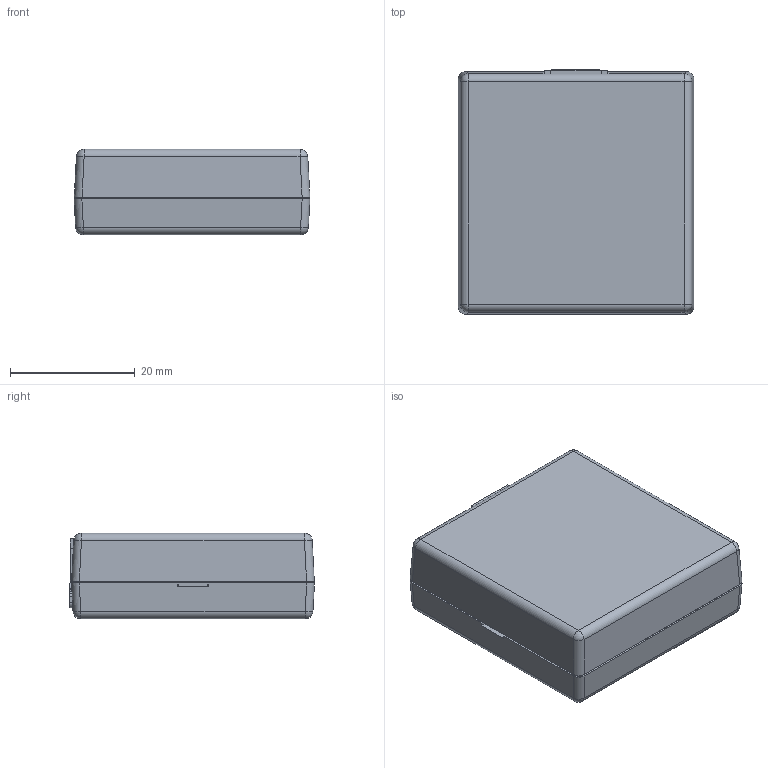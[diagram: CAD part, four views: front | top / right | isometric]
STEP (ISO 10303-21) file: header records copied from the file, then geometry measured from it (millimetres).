
FILE_DESCRIPTION(/* description */ ('Alibre Inc.'),/* implementation_level */ '2;1');
FILE_NAME(/* name */ 'export-A8FEBFD9-3367-4C47-B630-56BEC604B62A',/* time_stamp */ '2022-08-19T13:12:48-06:00',/* author */ (''),/* organization */ (''),/* preprocessor_version */ 'ST-DEVELOPER v17',/* originating_system */ 'Alibre',/* authorisation */ '');
FILE_SCHEMA (('CONFIG_CONTROL_DESIGN'));
Length unit declared in the file: millimetre
Products named in the file (87): J1; 6008891392; 6008891200; C13; 6008892160; 6008891968; C11; 6008890816; 6008890624; FB2; C7; User_Library-SOT-23-1; U9; U2; R10; O1; 6008890240; 6008890432; C23; C10; C9; C8; C4; C3; C2; C1; RV1; R13; R11; 6008891008; L3; 6494292096; L2; 705530002; J2; FB1; 6494291520; U3; C12; R1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
Bounding box: 37.85 x 39.3 x 13.72 mm (x, y, z)
Volume: 9523.3 mm3; surface area: 14245.2 mm2
Topology: 84 solids, 84 shells, 1716 faces, 4288 edges, 2730 vertices
Faces by surface type: plane 1249, cylinder 326, bspline 119, sphere 10, cone 8, torus 4
Full cylindrical faces by diameter (mm): 0.381 x4, 0.965 x39, 3.099 x4, 3.175 x4
Entity records: 50770 total; most frequent: CARTESIAN_POINT 11029, ORIENTED_EDGE 6424, DIRECTION 5329, EDGE_CURVE 3212, VECTOR 2432, LINE 2432, VERTEX_POINT 2046, AXIS2_PLACEMENT_3D 1888
